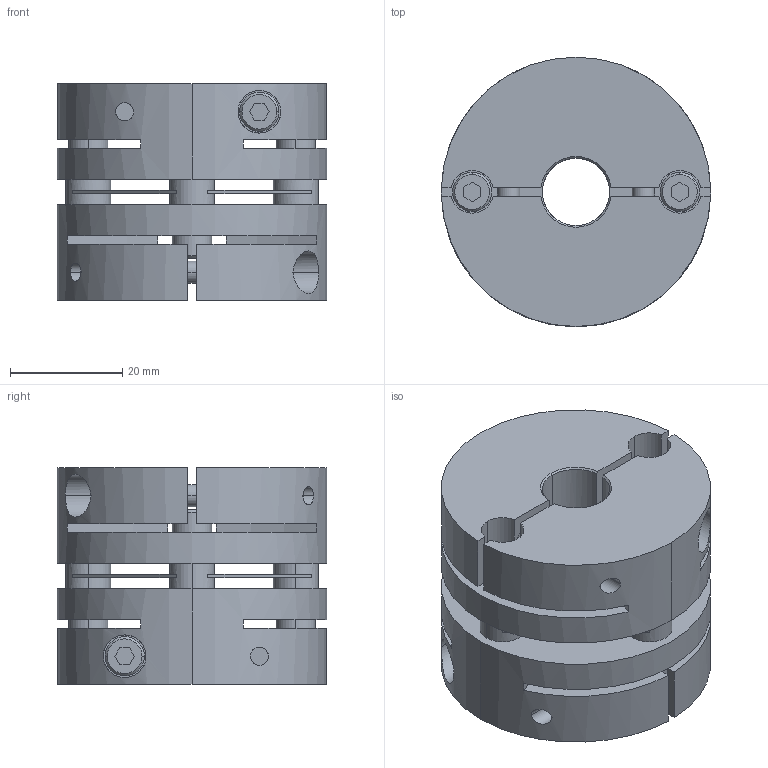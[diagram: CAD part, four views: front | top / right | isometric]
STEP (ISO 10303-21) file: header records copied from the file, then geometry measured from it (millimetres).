
FILE_DESCRIPTION((''),'2;1');
FILE_NAME('LAS-48C-12×15.stp','2011-08-09T16:36:26',(''),(''),'AutoCAD STEP 2000i','AutoCAD 2000i',', , ');
FILE_SCHEMA(('CONFIG_CONTROL_DESIGN'));
Length unit declared in the file: millimetre
Products named in the file (5): LAS-48C-12×12; 忣兜1; LA-4802-D12-1; LA-4802-D12; LAS48-ITA
Assembly tree (4 placements, depth 2):
  LAS-48C-12×12
    忣兜1
    LA-4802-D12-1
    LA-4802-D12
    LAS48-ITA
Bounding box: 48 x 48 x 38.6 mm (x, y, z)
Volume: 50760.1 mm3; surface area: 22620.4 mm2
Topology: 1 solids, 1 shells, 224 faces, 588 edges, 384 vertices
Faces by surface type: plane 112, cylinder 84, cone 28
Entity records: 7607 total; most frequent: CARTESIAN_POINT 1713, DIRECTION 1250, ORIENTED_EDGE 1176, EDGE_CURVE 588, AXIS2_PLACEMENT_3D 457, VERTEX_POINT 384, VECTOR 336, LINE 336
